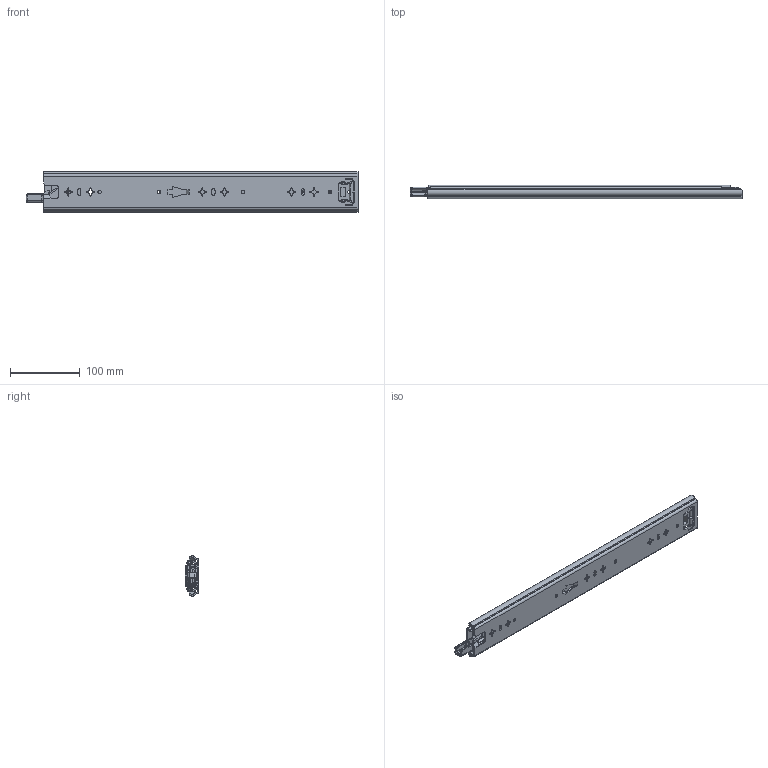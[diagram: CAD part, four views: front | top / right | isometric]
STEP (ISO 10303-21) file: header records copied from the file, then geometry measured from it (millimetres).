
FILE_DESCRIPTION((''),'2;1');
FILE_NAME('KP-57-01ZUZHUANGTU-18_ASM','2023-03-30T',('jishu015'),(''),'PRO/ENGINEER BY PARAMETRIC TECHNOLOGY CORPORATION, 2010280','PRO/ENGINEER BY PARAMETRIC TECHNOLOGY CORPORATION, 2010280','');
FILE_SCHEMA(('CONFIG_CONTROL_DESIGN'));
Length unit declared in the file: millimetre
Products named in the file (22): KP-57-01WEIKE-20_; 1057WEIJIAO_________________; WAIKE________________ASM; KP-57-01ZHONGGUI-26____; ZHONGGUIPEIJIAN-20_; ZHONGGUISUOKOU-18; KP-57-01ZHONGGUI-26_____ASM; 1057XIAOZHUJIA_________________; 1057-5-6GANZHU_________________; 1057XIAOZHUJIA-14GE26_____ASM; KP-57-01NEIGUI-22__; PJ-57-08_______________; DIAOPIAN-11_______________; 50XINSUOKOU-1_______________; TANHUANG_______________; 1053-3SBANJI122_____________; JIAO11_____________; KP-57-01NEIGUI-22___ASM; 1053ZHUTIAO-275____; 53-5-6GANZHU1_; 1053ZHUTIAO-175MM111_ASM; KP-57-01ZUZHUANGTU-18_ASM
Assembly tree (55 placements, depth 3):
  KP-57-01ZUZHUANGTU-18_ASM
    WAIKE________________ASM
      KP-57-01WEIKE-20_
      1057WEIJIAO_________________
    KP-57-01ZHONGGUI-26_____ASM
      KP-57-01ZHONGGUI-26____
      ZHONGGUIPEIJIAN-20_
      ZHONGGUISUOKOU-18
    1057XIAOZHUJIA-14GE26_____ASM
      1057XIAOZHUJIA_________________
      1057-5-6GANZHU_________________  x28
    KP-57-01NEIGUI-22___ASM
      KP-57-01NEIGUI-22__
      PJ-57-08_______________
      DIAOPIAN-11_______________
      50XINSUOKOU-1_______________
      TANHUANG_______________
      1053-3SBANJI122_____________
      JIAO11_____________
    1053ZHUTIAO-175MM111_ASM  x2
      1053ZHUTIAO-275____
      53-5-6GANZHU1_
Bounding box: 475.42 x 19.01 x 57.67 mm (x, y, z)
Volume: 195542.2 mm3; surface area: 211905.3 mm2
Topology: 59 solids, 59 shells, 1806 faces, 5146 edges, 3237 vertices
Faces by surface type: plane 771, cylinder 746, sphere 95, bspline 86, cone 60, torus 25, extrusion 23
Entity records: 60112 total; most frequent: CARTESIAN_POINT 15335, ORIENTED_EDGE 9476, DIRECTION 9178, EDGE_CURVE 4738, AXIS2_PLACEMENT_3D 3166, VERTEX_POINT 3057, VECTOR 2846, LINE 2823
